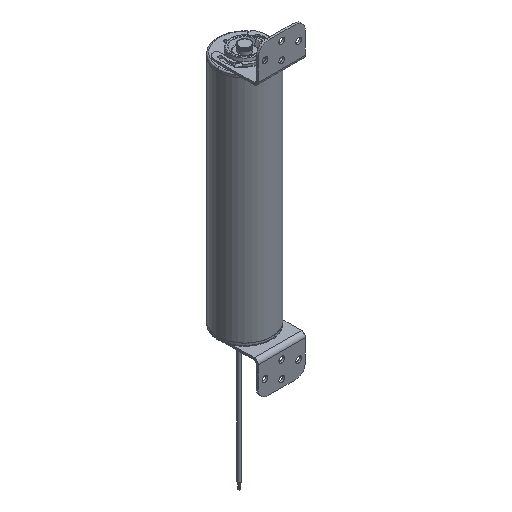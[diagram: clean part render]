
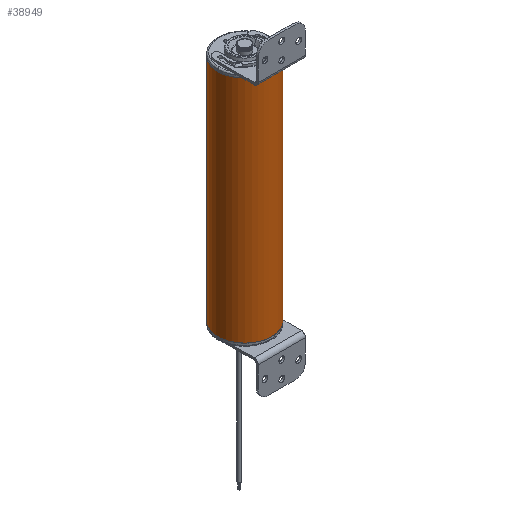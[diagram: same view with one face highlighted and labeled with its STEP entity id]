
A CAD part, isometric view. The second image highlights one B-rep face of the part: STEP entity #38949.
In plain terms, the highlighted cylindrical face has radius 40 mm (diameter 80 mm), a partial arc.
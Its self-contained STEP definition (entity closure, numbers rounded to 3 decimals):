
#1129 = CIRCLE ( 'NONE', #38825, 40. ) ;
#2600 = CARTESIAN_POINT ( 'NONE',  ( 0., 0., 0. ) ) ;
#3748 = CIRCLE ( 'NONE', #8942, 40. ) ;
#3831 = VECTOR ( 'NONE', #19549, 1000. ) ;
#4694 = VERTEX_POINT ( 'NONE', #17937 ) ;
#7784 = CARTESIAN_POINT ( 'NONE',  ( 40., 0., 340.7 ) ) ;
#8942 = AXIS2_PLACEMENT_3D ( 'NONE', #30049, #10717, #32895 ) ;
#9350 = EDGE_LOOP ( 'NONE', ( #32391, #18065, #20289, #13997 ) ) ;
#10717 = DIRECTION ( 'NONE',  ( 0., 0., -1. ) ) ;
#13854 = CARTESIAN_POINT ( 'NONE',  ( 40., 0., 0. ) ) ;
#13997 = ORIENTED_EDGE ( 'NONE', *, *, #34496, .F. ) ;
#14376 = EDGE_CURVE ( 'NONE', #29911, #27590, #3748, .T. ) ;
#14457 = EDGE_CURVE ( 'NONE', #37859, #4694, #1129, .T. ) ;
#15831 = FACE_OUTER_BOUND ( 'NONE', #9350, .T. ) ;
#15841 = VECTOR ( 'NONE', #26765, 1000. ) ;
#16051 = EDGE_CURVE ( 'NONE', #27590, #37859, #16089, .T. ) ;
#16089 = LINE ( 'NONE', #31964, #3831 ) ;
#16942 = AXIS2_PLACEMENT_3D ( 'NONE', #40270, #30712, #33956 ) ;
#17937 = CARTESIAN_POINT ( 'NONE',  ( -40., 0., 0. ) ) ;
#18065 = ORIENTED_EDGE ( 'NONE', *, *, #16051, .T. ) ;
#18901 = CYLINDRICAL_SURFACE ( 'NONE', #16942, 40. ) ;
#19549 = DIRECTION ( 'NONE',  ( 0., 0., -1. ) ) ;
#20289 = ORIENTED_EDGE ( 'NONE', *, *, #14457, .T. ) ;
#21699 = DIRECTION ( 'NONE',  ( -1., 0., 0. ) ) ;
#24347 = DIRECTION ( 'NONE',  ( 0., 0., 1. ) ) ;
#26765 = DIRECTION ( 'NONE',  ( 0., 0., -1. ) ) ;
#27590 = VERTEX_POINT ( 'NONE', #7784 ) ;
#29911 = VERTEX_POINT ( 'NONE', #39310 ) ;
#30049 = CARTESIAN_POINT ( 'NONE',  ( 0., 0., 340.7 ) ) ;
#30712 = DIRECTION ( 'NONE',  ( 0., 0., -1. ) ) ;
#31964 = CARTESIAN_POINT ( 'NONE',  ( 40., 0., 340.7 ) ) ;
#32391 = ORIENTED_EDGE ( 'NONE', *, *, #14376, .T. ) ;
#32895 = DIRECTION ( 'NONE',  ( -1., 0., 0. ) ) ;
#33956 = DIRECTION ( 'NONE',  ( -1., 0., 0. ) ) ;
#34496 = EDGE_CURVE ( 'NONE', #29911, #4694, #36330, .T. ) ;
#36330 = LINE ( 'NONE', #36542, #15841 ) ;
#36542 = CARTESIAN_POINT ( 'NONE',  ( -40., 0., 340.7 ) ) ;
#37859 = VERTEX_POINT ( 'NONE', #13854 ) ;
#38825 = AXIS2_PLACEMENT_3D ( 'NONE', #2600, #24347, #21699 ) ;
#38949 = ADVANCED_FACE ( 'NONE', ( #15831 ), #18901, .T. ) ;
#39310 = CARTESIAN_POINT ( 'NONE',  ( -40., 0., 340.7 ) ) ;
#40270 = CARTESIAN_POINT ( 'NONE',  ( 0., 0., 340.7 ) ) ;
